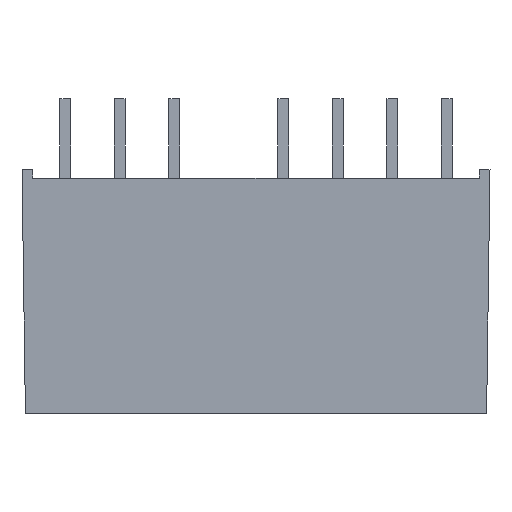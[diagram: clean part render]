
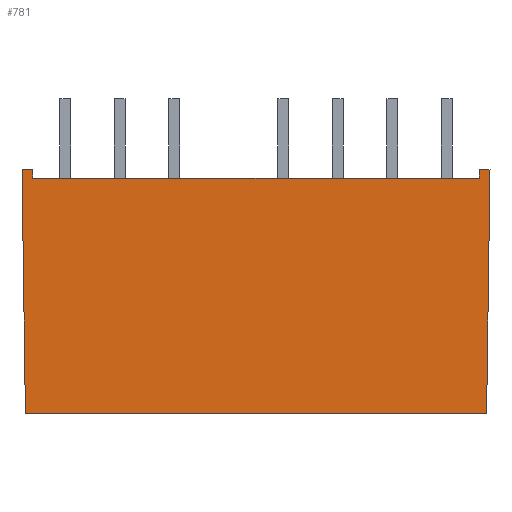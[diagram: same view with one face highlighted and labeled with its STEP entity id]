
A CAD part, front view. The second image highlights one B-rep face of the part: STEP entity #781.
In plain terms, the highlighted planar face has unit normal (0, -1, -0.014).
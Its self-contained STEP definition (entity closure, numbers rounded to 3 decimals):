
#27=FACE_OUTER_BOUND('',#79,.T.);
#79=EDGE_LOOP('',(#563,#564,#565,#566,#567,#568,#569,#570));
#120=LINE('',#1074,#228);
#153=LINE('',#1139,#261);
#154=LINE('',#1142,#262);
#159=LINE('',#1151,#267);
#160=LINE('',#1154,#268);
#163=LINE('',#1160,#271);
#164=LINE('',#1162,#272);
#165=LINE('',#1163,#273);
#228=VECTOR('',#873,20.789);
#261=VECTOR('',#908,0.4);
#262=VECTOR('',#911,0.4);
#267=VECTOR('',#918,0.5);
#268=VECTOR('',#921,0.5);
#271=VECTOR('',#926,11.352);
#272=VECTOR('',#927,21.483);
#273=VECTOR('',#928,11.352);
#336=VERTEX_POINT('',#1071);
#337=VERTEX_POINT('',#1073);
#368=VERTEX_POINT('',#1137);
#369=VERTEX_POINT('',#1141);
#372=VERTEX_POINT('',#1149);
#373=VERTEX_POINT('',#1153);
#375=VERTEX_POINT('',#1159);
#376=VERTEX_POINT('',#1161);
#408=EDGE_CURVE('',#337,#336,#120,.T.);
#441=EDGE_CURVE('',#336,#368,#153,.T.);
#442=EDGE_CURVE('',#369,#337,#154,.T.);
#447=EDGE_CURVE('',#368,#372,#159,.T.);
#448=EDGE_CURVE('',#373,#369,#160,.T.);
#451=EDGE_CURVE('',#375,#372,#163,.T.);
#452=EDGE_CURVE('',#375,#376,#164,.F.);
#453=EDGE_CURVE('',#376,#373,#165,.F.);
#563=ORIENTED_EDGE('',*,*,#442,.T.);
#564=ORIENTED_EDGE('',*,*,#408,.T.);
#565=ORIENTED_EDGE('',*,*,#441,.T.);
#566=ORIENTED_EDGE('',*,*,#447,.T.);
#567=ORIENTED_EDGE('',*,*,#451,.F.);
#568=ORIENTED_EDGE('',*,*,#452,.T.);
#569=ORIENTED_EDGE('',*,*,#453,.T.);
#570=ORIENTED_EDGE('',*,*,#448,.T.);
#736=PLANE('',#828);
#781=ADVANCED_FACE('',(#27),#736,.T.);
#828=AXIS2_PLACEMENT_3D('',#1158,#924,#925);
#873=DIRECTION('',(-1.,0.,0.));
#908=DIRECTION('',(-0.014,-0.014,1.));
#911=DIRECTION('',(-0.014,0.014,-1.));
#918=DIRECTION('',(-1.,0.,0.));
#921=DIRECTION('',(-1.,0.,0.));
#924=DIRECTION('center_axis',(0.,-1.,-0.014));
#925=DIRECTION('ref_axis',(0.,0.014,-1.));
#926=DIRECTION('',(-0.014,-0.014,1.));
#927=DIRECTION('',(-1.,0.,0.));
#928=DIRECTION('',(-0.014,0.014,-1.));
#1071=CARTESIAN_POINT('',(-10.394,-4.644,10.95));
#1073=CARTESIAN_POINT('',(10.394,-4.644,10.95));
#1074=CARTESIAN_POINT('',(5.45,-4.644,10.95));
#1137=CARTESIAN_POINT('',(-10.4,-4.65,11.35));
#1139=CARTESIAN_POINT('',(-10.318,-4.568,5.463));
#1141=CARTESIAN_POINT('',(10.4,-4.65,11.35));
#1142=CARTESIAN_POINT('',(10.321,-4.571,5.68));
#1149=CARTESIAN_POINT('',(-10.9,-4.65,11.35));
#1151=CARTESIAN_POINT('',(-10.9,-4.65,11.35));
#1153=CARTESIAN_POINT('',(10.9,-4.65,11.35));
#1154=CARTESIAN_POINT('',(-10.9,-4.65,11.35));
#1158=CARTESIAN_POINT('Origin',(10.9,-4.492,0.001));
#1159=CARTESIAN_POINT('',(-10.742,-4.492,0.));
#1160=CARTESIAN_POINT('',(-10.739,-4.489,-0.149));
#1161=CARTESIAN_POINT('',(10.742,-4.492,0.));
#1162=CARTESIAN_POINT('',(5.45,-4.492,0.));
#1163=CARTESIAN_POINT('',(10.741,-4.491,-0.062));
